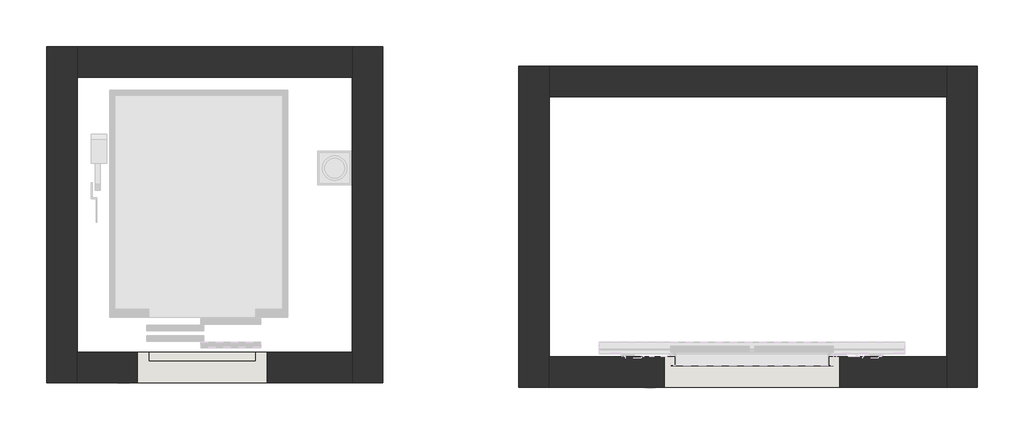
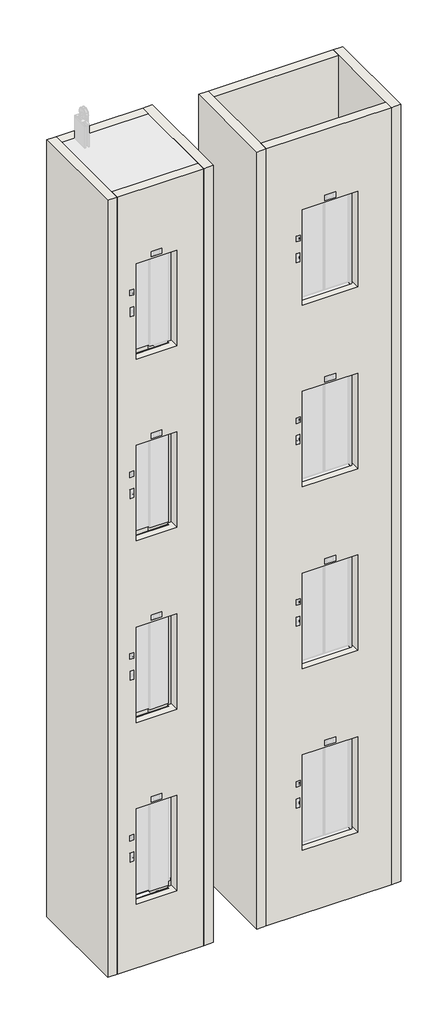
# One storey, part 1 of 2: 8 walls.
"""IFC4 building model written with IfcOpenShell, lengths in millimetres."""

from ifc_helpers import new_model, si_unit, frame, origin, place, context, project, spatial, polyline, outline, extrude, faceted_brep, element, save

model = new_model("IFC4")

# Units and contexts
model_context = context("Model", 3, world=origin())
ifc_project = project(units=[si_unit("LENGTHUNIT", "METRE", prefix="MILLI")], contexts=[model_context])

# Site, building, storey
site = spatial("IfcSite", under=ifc_project)
building = spatial("IfcBuilding", under=site)
storey = spatial("IfcBuildingStorey", under=building, Name="Уровень 2", Elevation=4000.0)

# Walls
placement = place(None, origin())
element("IfcWall", 1, ObjectType="Типовой - 200мм", at=placement, inside=storey, context=model_context, shape_type="Brep", body=[
    faceted_brep([(528.4862631, -2017.209494, 2600.0), (528.4862631, -2217.209494, 2600.0), (528.4862631, -3917.209494, 2600.0), (528.4862631, -4117.209494, 2600.0), (528.4862631, -4117.209494, 19700.0), (528.4862631, -3917.209494, 19700.0), (528.4862631, -2217.209494, 19700.0), (528.4862631, -2017.209494, 19700.0), (728.4862631, -2017.209494, 2600.0), (728.4862631, -2017.209494, 19700.0), (728.4862631, -4117.209494, 19700.0), (728.4862631, -4117.209494, 2600.0)], [[[0, 1, 2, 3, 4, 5, 6, 7]], [[8, 9, 10, 11]], [[3, 2, 1, 0, 8, 11]], [[4, 3, 11, 10]], [[0, 7, 9, 8]], [[7, 6, 5, 4, 10, 9]]]),
])
element("IfcWall", 2, ObjectType="Типовой - 200мм", at=placement, inside=storey, context=model_context, shape_type="Brep", body=[
    faceted_brep([(-2271.5137369, -2017.209494, 2600.0), (-2271.5137369, -4117.209494, 2600.0), (-2271.5137369, -4117.209494, 19700.0), (-2271.5137369, -2017.209494, 19700.0), (-2071.5137369, -2017.209494, 2600.0), (-2071.5137369, -2017.209494, 19700.0), (-2071.5137369, -2217.209494, 19700.0), (-2071.5137369, -3917.209494, 19700.0), (-2071.5137369, -4117.209494, 19700.0), (-2071.5137369, -4117.209494, 2600.0), (-2071.5137369, -3917.209494, 2600.0), (-2071.5137369, -2217.209494, 2600.0)], [[[0, 1, 2, 3]], [[4, 5, 6, 7, 8, 9, 10, 11]], [[1, 0, 4, 11, 10, 9]], [[2, 1, 9, 8]], [[0, 3, 5, 4]], [[3, 2, 8, 7, 6, 5]]]),
])
element("IfcWall", 3, ObjectType="Типовой - 200мм", at=placement, inside=storey, context=model_context, shape_type="Brep", body=[
    faceted_brep([(-2071.5137369, -4117.209494, 2600.0), (528.4862631, -4117.209494, 2600.0), (528.4862631, -4117.209494, 19700.0), (-2071.5137369, -4117.209494, 19700.0), (-836.5137369, -4117.209494, 10250.0), (-656.5137369, -4117.209494, 10250.0), (-656.5137369, -4117.209494, 10150.0), (-836.5137369, -4117.209494, 10150.0), (-1432.8137369, -4117.209494, 9055.0), (-1432.8137369, -4117.209494, 9095.0), (-1392.8137369, -4117.209494, 9095.0), (-1392.8137369, -4117.209494, 9055.0), (-1432.8137369, -4117.209494, 9520.0), (-1392.8137369, -4117.209494, 9520.0), (-1392.8137369, -4117.209494, 9480.0), (-1432.8137369, -4117.209494, 9480.0), (-171.5137369, -4117.209494, 8000.0), (-1321.5137369, -4117.209494, 8000.0), (-1321.5137369, -4117.209494, 10100.0), (-171.5137369, -4117.209494, 10100.0), (-836.5137369, -4117.209494, 14250.0), (-656.5137369, -4117.209494, 14250.0), (-656.5137369, -4117.209494, 14150.0), (-836.5137369, -4117.209494, 14150.0), (-1432.8137369, -4117.209494, 13055.0), (-1432.8137369, -4117.209494, 13095.0), (-1392.8137369, -4117.209494, 13095.0), (-1392.8137369, -4117.209494, 13055.0), (-1432.8137369, -4117.209494, 13520.0), (-1392.8137369, -4117.209494, 13520.0), (-1392.8137369, -4117.209494, 13480.0), (-1432.8137369, -4117.209494, 13480.0), (-171.5137369, -4117.209494, 12000.0), (-1321.5137369, -4117.209494, 12000.0), (-1321.5137369, -4117.209494, 14100.0), (-171.5137369, -4117.209494, 14100.0), (-836.5137369, -4117.209494, 18250.0), (-656.5137369, -4117.209494, 18250.0), (-656.5137369, -4117.209494, 18150.0), (-836.5137369, -4117.209494, 18150.0), (-1432.8137369, -4117.209494, 17055.0), (-1432.8137369, -4117.209494, 17095.0), (-1392.8137369, -4117.209494, 17095.0), (-1392.8137369, -4117.209494, 17055.0), (-1432.8137369, -4117.209494, 17520.0), (-1392.8137369, -4117.209494, 17520.0), (-1392.8137369, -4117.209494, 17480.0), (-1432.8137369, -4117.209494, 17480.0), (-171.5137369, -4117.209494, 16000.0), (-1321.5137369, -4117.209494, 16000.0), (-1321.5137369, -4117.209494, 18100.0), (-171.5137369, -4117.209494, 18100.0), (-836.5137369, -4117.209494, 6250.0), (-656.5137369, -4117.209494, 6250.0), (-656.5137369, -4117.209494, 6150.0), (-836.5137369, -4117.209494, 6150.0), (-1432.8137369, -4117.209494, 5055.0), (-1432.8137369, -4117.209494, 5095.0), (-1392.8137369, -4117.209494, 5095.0), (-1392.8137369, -4117.209494, 5055.0), (-1432.8137369, -4117.209494, 5520.0), (-1392.8137369, -4117.209494, 5520.0), (-1392.8137369, -4117.209494, 5480.0), (-1432.8137369, -4117.209494, 5480.0), (-171.5137369, -4117.209494, 4000.0), (-1321.5137369, -4117.209494, 4000.0), (-1321.5137369, -4117.209494, 6100.0), (-171.5137369, -4117.209494, 6100.0), (528.4862631, -3917.209494, 2600.0), (-2071.5137369, -3917.209494, 2600.0), (-2071.5137369, -3917.209494, 19700.0), (528.4862631, -3917.209494, 19700.0), (-726.5137369, -3917.209494, 10180.0), (-726.5137369, -3917.209494, 10220.0), (-766.5137369, -3917.209494, 10220.0), (-766.5137369, -3917.209494, 10180.0), (-1432.8137369, -3917.209494, 9095.0), (-1432.8137369, -3917.209494, 9055.0), (-1392.8137369, -3917.209494, 9055.0), (-1392.8137369, -3917.209494, 9095.0), (-1392.8137369, -3917.209494, 9520.0), (-1432.8137369, -3917.209494, 9520.0), (-1432.8137369, -3917.209494, 9480.0), (-1392.8137369, -3917.209494, 9480.0), (-1321.5137369, -3917.209494, 8000.0), (-1246.5137369, -3917.209494, 8000.0), (-1246.5137369, -3917.209494, 7970.0), (-246.5137369, -3917.209494, 7970.0), (-246.5137369, -3917.209494, 8000.0), (-171.5137369, -3917.209494, 8000.0), (-171.5137369, -3917.209494, 10100.0), (-1321.5137369, -3917.209494, 10100.0), (-726.5137369, -3917.209494, 14180.0), (-726.5137369, -3917.209494, 14220.0), (-766.5137369, -3917.209494, 14220.0), (-766.5137369, -3917.209494, 14180.0), (-1432.8137369, -3917.209494, 13095.0), (-1432.8137369, -3917.209494, 13055.0), (-1392.8137369, -3917.209494, 13055.0), (-1392.8137369, -3917.209494, 13095.0), (-1392.8137369, -3917.209494, 13520.0), (-1432.8137369, -3917.209494, 13520.0), (-1432.8137369, -3917.209494, 13480.0), (-1392.8137369, -3917.209494, 13480.0), (-1321.5137369, -3917.209494, 12000.0), (-1246.5137369, -3917.209494, 12000.0), (-1246.5137369, -3917.209494, 11970.0), (-246.5137369, -3917.209494, 11970.0), (-246.5137369, -3917.209494, 12000.0), (-171.5137369, -3917.209494, 12000.0), (-171.5137369, -3917.209494, 14100.0), (-1321.5137369, -3917.209494, 14100.0), (-726.5137369, -3917.209494, 18180.0), (-726.5137369, -3917.209494, 18220.0), (-766.5137369, -3917.209494, 18220.0), (-766.5137369, -3917.209494, 18180.0), (-1432.8137369, -3917.209494, 17095.0), (-1432.8137369, -3917.209494, 17055.0), (-1392.8137369, -3917.209494, 17055.0), (-1392.8137369, -3917.209494, 17095.0), (-1392.8137369, -3917.209494, 17520.0), (-1432.8137369, -3917.209494, 17520.0), (-1432.8137369, -3917.209494, 17480.0), (-1392.8137369, -3917.209494, 17480.0), (-1321.5137369, -3917.209494, 16000.0), (-1246.5137369, -3917.209494, 16000.0), (-1246.5137369, -3917.209494, 15970.0), (-246.5137369, -3917.209494, 15970.0), (-246.5137369, -3917.209494, 16000.0), (-171.5137369, -3917.209494, 16000.0), (-171.5137369, -3917.209494, 18100.0), (-1321.5137369, -3917.209494, 18100.0), (-726.5137369, -3917.209494, 6180.0), (-726.5137369, -3917.209494, 6220.0), (-766.5137369, -3917.209494, 6220.0), (-766.5137369, -3917.209494, 6180.0), (-1432.8137369, -3917.209494, 5095.0), (-1432.8137369, -3917.209494, 5055.0), (-1392.8137369, -3917.209494, 5055.0), (-1392.8137369, -3917.209494, 5095.0), (-1392.8137369, -3917.209494, 5520.0), (-1432.8137369, -3917.209494, 5520.0), (-1432.8137369, -3917.209494, 5480.0), (-1392.8137369, -3917.209494, 5480.0), (-1321.5137369, -3917.209494, 4000.0), (-1246.5137369, -3917.209494, 4000.0), (-1246.5137369, -3917.209494, 3970.0), (-246.5137369, -3917.209494, 3970.0), (-246.5137369, -3917.209494, 4000.0), (-171.5137369, -3917.209494, 4000.0), (-171.5137369, -3917.209494, 6100.0), (-1321.5137369, -3917.209494, 6100.0), (-726.5137369, -4037.209494, 10180.0), (-726.5137369, -4037.209494, 10220.0), (-766.5137369, -4037.209494, 10220.0), (-766.5137369, -4037.209494, 10180.0), (-656.5137369, -4037.209494, 10250.0), (-836.5137369, -4037.209494, 10250.0), (-836.5137369, -4037.209494, 10150.0), (-656.5137369, -4037.209494, 10150.0), (-246.5137369, -3977.209494, 8000.0), (-1246.5137369, -3977.209494, 8000.0), (-1246.5137369, -3977.209494, 7970.0), (-246.5137369, -3977.209494, 7970.0), (-726.5137369, -4037.209494, 14180.0), (-726.5137369, -4037.209494, 14220.0), (-766.5137369, -4037.209494, 14220.0), (-766.5137369, -4037.209494, 14180.0), (-656.5137369, -4037.209494, 14250.0), (-836.5137369, -4037.209494, 14250.0), (-836.5137369, -4037.209494, 14150.0), (-656.5137369, -4037.209494, 14150.0), (-246.5137369, -3977.209494, 12000.0), (-1246.5137369, -3977.209494, 12000.0), (-1246.5137369, -3977.209494, 11970.0), (-246.5137369, -3977.209494, 11970.0), (-726.5137369, -4037.209494, 18180.0), (-726.5137369, -4037.209494, 18220.0), (-766.5137369, -4037.209494, 18220.0), (-766.5137369, -4037.209494, 18180.0), (-656.5137369, -4037.209494, 18250.0), (-836.5137369, -4037.209494, 18250.0), (-836.5137369, -4037.209494, 18150.0), (-656.5137369, -4037.209494, 18150.0), (-246.5137369, -3977.209494, 16000.0), (-1246.5137369, -3977.209494, 16000.0), (-1246.5137369, -3977.209494, 15970.0), (-246.5137369, -3977.209494, 15970.0), (-726.5137369, -4037.209494, 6180.0), (-726.5137369, -4037.209494, 6220.0), (-766.5137369, -4037.209494, 6220.0), (-766.5137369, -4037.209494, 6180.0), (-656.5137369, -4037.209494, 6250.0), (-836.5137369, -4037.209494, 6250.0), (-836.5137369, -4037.209494, 6150.0), (-656.5137369, -4037.209494, 6150.0), (-246.5137369, -3977.209494, 4000.0), (-1246.5137369, -3977.209494, 4000.0), (-1246.5137369, -3977.209494, 3970.0), (-246.5137369, -3977.209494, 3970.0)], [[[0, 1, 2, 3], [4, 5, 6, 7], [8, 9, 10, 11], [12, 13, 14, 15], [16, 17, 18, 19], [20, 21, 22, 23], [24, 25, 26, 27], [28, 29, 30, 31], [32, 33, 34, 35], [36, 37, 38, 39], [40, 41, 42, 43], [44, 45, 46, 47], [48, 49, 50, 51], [52, 53, 54, 55], [56, 57, 58, 59], [60, 61, 62, 63], [64, 65, 66, 67]], [[68, 69, 70, 71], [72, 73, 74, 75], [76, 77, 78, 79], [80, 81, 82, 83], [84, 85, 86, 87, 88, 89, 90, 91], [92, 93, 94, 95], [96, 97, 98, 99], [100, 101, 102, 103], [104, 105, 106, 107, 108, 109, 110, 111], [112, 113, 114, 115], [116, 117, 118, 119], [120, 121, 122, 123], [124, 125, 126, 127, 128, 129, 130, 131], [132, 133, 134, 135], [136, 137, 138, 139], [140, 141, 142, 143], [144, 145, 146, 147, 148, 149, 150, 151]], [[1, 0, 69, 68]], [[0, 3, 70, 69]], [[2, 1, 68, 71]], [[3, 2, 71, 70]], [[72, 152, 153, 73]], [[73, 153, 154, 74]], [[74, 154, 155, 75]], [[152, 72, 75, 155]], [[156, 157, 158, 159], [153, 152, 155, 154]], [[157, 156, 5, 4]], [[158, 157, 4, 7]], [[159, 158, 7, 6]], [[156, 159, 6, 5]], [[8, 77, 76, 9]], [[9, 76, 79, 10]], [[10, 79, 78, 11]], [[77, 8, 11, 78]], [[80, 13, 12, 81]], [[82, 15, 14, 83]], [[13, 80, 83, 14]], [[81, 12, 15, 82]], [[84, 17, 16, 89, 88, 160, 161, 85]], [[18, 91, 90, 19]], [[17, 84, 91, 18]], [[89, 16, 19, 90]], [[162, 163, 87, 86]], [[85, 161, 162, 86]], [[161, 160, 163, 162]], [[160, 88, 87, 163]], [[92, 164, 165, 93]], [[93, 165, 166, 94]], [[94, 166, 167, 95]], [[164, 92, 95, 167]], [[168, 169, 170, 171], [165, 164, 167, 166]], [[169, 168, 21, 20]], [[170, 169, 20, 23]], [[171, 170, 23, 22]], [[168, 171, 22, 21]], [[24, 97, 96, 25]], [[25, 96, 99, 26]], [[26, 99, 98, 27]], [[97, 24, 27, 98]], [[100, 29, 28, 101]], [[102, 31, 30, 103]], [[29, 100, 103, 30]], [[101, 28, 31, 102]], [[104, 33, 32, 109, 108, 172, 173, 105]], [[34, 111, 110, 35]], [[33, 104, 111, 34]], [[109, 32, 35, 110]], [[174, 175, 107, 106]], [[105, 173, 174, 106]], [[173, 172, 175, 174]], [[172, 108, 107, 175]], [[112, 176, 177, 113]], [[113, 177, 178, 114]], [[114, 178, 179, 115]], [[176, 112, 115, 179]], [[180, 181, 182, 183], [177, 176, 179, 178]], [[181, 180, 37, 36]], [[182, 181, 36, 39]], [[183, 182, 39, 38]], [[180, 183, 38, 37]], [[40, 117, 116, 41]], [[41, 116, 119, 42]], [[42, 119, 118, 43]], [[117, 40, 43, 118]], [[120, 45, 44, 121]], [[122, 47, 46, 123]], [[45, 120, 123, 46]], [[121, 44, 47, 122]], [[124, 49, 48, 129, 128, 184, 185, 125]], [[50, 131, 130, 51]], [[49, 124, 131, 50]], [[129, 48, 51, 130]], [[186, 187, 127, 126]], [[125, 185, 186, 126]], [[185, 184, 187, 186]], [[184, 128, 127, 187]], [[132, 188, 189, 133]], [[133, 189, 190, 134]], [[134, 190, 191, 135]], [[188, 132, 135, 191]], [[192, 193, 194, 195], [189, 188, 191, 190]], [[193, 192, 53, 52]], [[194, 193, 52, 55]], [[195, 194, 55, 54]], [[192, 195, 54, 53]], [[56, 137, 136, 57]], [[57, 136, 139, 58]], [[58, 139, 138, 59]], [[137, 56, 59, 138]], [[140, 61, 60, 141]], [[142, 63, 62, 143]], [[61, 140, 143, 62]], [[141, 60, 63, 142]], [[144, 65, 64, 149, 148, 196, 197, 145]], [[66, 151, 150, 67]], [[65, 144, 151, 66]], [[149, 64, 67, 150]], [[198, 199, 147, 146]], [[145, 197, 198, 146]], [[197, 196, 199, 198]], [[196, 148, 147, 199]]]),
])
element("IfcWall", 4, ObjectType="Типовой - 200мм", at=placement, inside=storey, context=model_context, shape_type="SweptSolid", body=[
    extrude(outline(polyline([(528.4862631, -2217.209494), (-2071.5137369, -2217.209494), (-2071.5137369, -2017.209494), (528.4862631, -2017.209494), (528.4862631, -2217.209494)])), frame((0.0, 0.0, 2600.0), z_axis=(0.0, 0.0, 1.0), x_axis=(1.0, 0.0, 0.0)), (0.0, 0.0, 1.0), 17100.0),
])
element("IfcWall", 5, ObjectType="Типовой - 200мм", at=placement, inside=storey, context=model_context, shape_type="Brep", body=[
    faceted_brep([(-3362.0143835, -1887.209494, 2600.0), (-3362.0143835, -2087.209494, 2600.0), (-3362.0143835, -3887.209494, 2600.0), (-3362.0143835, -4087.209494, 2600.0), (-3362.0143835, -4087.209494, 19700.0), (-3362.0143835, -3887.209494, 19700.0), (-3362.0143835, -2087.209494, 19700.0), (-3362.0143835, -1887.209494, 19700.0), (-3162.0143835, -1887.209494, 2600.0), (-3162.0143835, -1887.209494, 19700.0), (-3162.0143835, -4087.209494, 19700.0), (-3162.0143835, -4087.209494, 2600.0)], [[[0, 1, 2, 3, 4, 5, 6, 7]], [[8, 9, 10, 11]], [[3, 2, 1, 0, 8, 11]], [[4, 3, 11, 10]], [[0, 7, 9, 8]], [[7, 6, 5, 4, 10, 9]]]),
])
element("IfcWall", 6, ObjectType="Типовой - 200мм", at=placement, inside=storey, context=model_context, shape_type="Brep", body=[
    faceted_brep([(-5362.0143835, -1887.209494, 2600.0), (-5362.0143835, -4087.209494, 2600.0), (-5362.0143835, -4087.209494, 19700.0), (-5362.0143835, -1887.209494, 19700.0), (-5162.0143835, -1887.209494, 2600.0), (-5162.0143835, -1887.209494, 19700.0), (-5162.0143835, -2087.209494, 19700.0), (-5162.0143835, -3887.209494, 19700.0), (-5162.0143835, -4087.209494, 19700.0), (-5162.0143835, -4087.209494, 2600.0), (-5162.0143835, -3887.209494, 2600.0), (-5162.0143835, -2087.209494, 2600.0)], [[[0, 1, 2, 3]], [[4, 5, 6, 7, 8, 9, 10, 11]], [[1, 0, 4, 11, 10, 9]], [[2, 1, 9, 8]], [[0, 3, 5, 4]], [[3, 2, 8, 7, 6, 5]]]),
])
element("IfcWall", 7, ObjectType="Типовой - 200мм", at=placement, inside=storey, context=model_context, shape_type="Brep", body=[
    faceted_brep([(-5162.0143835, -4087.209494, 2600.0), (-3362.0143835, -4087.209494, 2600.0), (-3362.0143835, -4087.209494, 19700.0), (-5162.0143835, -4087.209494, 19700.0), (-4432.0143835, -4087.209494, 10250.0), (-4252.0143835, -4087.209494, 10250.0), (-4252.0143835, -4087.209494, 10150.0), (-4432.0143835, -4087.209494, 10150.0), (-4878.3143835, -4087.209494, 9055.0), (-4878.3143835, -4087.209494, 9095.0), (-4838.3143835, -4087.209494, 9095.0), (-4838.3143835, -4087.209494, 9055.0), (-4878.3143835, -4087.209494, 9520.0), (-4838.3143835, -4087.209494, 9520.0), (-4838.3143835, -4087.209494, 9480.0), (-4878.3143835, -4087.209494, 9480.0), (-3917.0143835, -4087.209494, 8000.0), (-4767.0143835, -4087.209494, 8000.0), (-4767.0143835, -4087.209494, 10100.0), (-3917.0143835, -4087.209494, 10100.0), (-4432.0143835, -4087.209494, 14250.0), (-4252.0143835, -4087.209494, 14250.0), (-4252.0143835, -4087.209494, 14150.0), (-4432.0143835, -4087.209494, 14150.0), (-4878.3143835, -4087.209494, 13055.0), (-4878.3143835, -4087.209494, 13095.0), (-4838.3143835, -4087.209494, 13095.0), (-4838.3143835, -4087.209494, 13055.0), (-4878.3143835, -4087.209494, 13520.0), (-4838.3143835, -4087.209494, 13520.0), (-4838.3143835, -4087.209494, 13480.0), (-4878.3143835, -4087.209494, 13480.0), (-3917.0143835, -4087.209494, 12000.0), (-4767.0143835, -4087.209494, 12000.0), (-4767.0143835, -4087.209494, 14100.0), (-3917.0143835, -4087.209494, 14100.0), (-4432.0143835, -4087.209494, 18250.0), (-4252.0143835, -4087.209494, 18250.0), (-4252.0143835, -4087.209494, 18150.0), (-4432.0143835, -4087.209494, 18150.0), (-4878.3143835, -4087.209494, 17055.0), (-4878.3143835, -4087.209494, 17095.0), (-4838.3143835, -4087.209494, 17095.0), (-4838.3143835, -4087.209494, 17055.0), (-4878.3143835, -4087.209494, 17520.0), (-4838.3143835, -4087.209494, 17520.0), (-4838.3143835, -4087.209494, 17480.0), (-4878.3143835, -4087.209494, 17480.0), (-3917.0143835, -4087.209494, 16000.0), (-4767.0143835, -4087.209494, 16000.0), (-4767.0143835, -4087.209494, 18100.0), (-3917.0143835, -4087.209494, 18100.0), (-4432.0143835, -4087.209494, 6250.0), (-4252.0143835, -4087.209494, 6250.0), (-4252.0143835, -4087.209494, 6150.0), (-4432.0143835, -4087.209494, 6150.0), (-4878.3143835, -4087.209494, 5055.0), (-4878.3143835, -4087.209494, 5095.0), (-4838.3143835, -4087.209494, 5095.0), (-4838.3143835, -4087.209494, 5055.0), (-4878.3143835, -4087.209494, 5520.0), (-4838.3143835, -4087.209494, 5520.0), (-4838.3143835, -4087.209494, 5480.0), (-4878.3143835, -4087.209494, 5480.0), (-3917.0143835, -4087.209494, 4000.0), (-4767.0143835, -4087.209494, 4000.0), (-4767.0143835, -4087.209494, 6100.0), (-3917.0143835, -4087.209494, 6100.0), (-3362.0143835, -3887.209494, 2600.0), (-5162.0143835, -3887.209494, 2600.0), (-5162.0143835, -3887.209494, 19700.0), (-3362.0143835, -3887.209494, 19700.0), (-4322.0143835, -3887.209494, 10180.0), (-4322.0143835, -3887.209494, 10220.0), (-4362.0143835, -3887.209494, 10220.0), (-4362.0143835, -3887.209494, 10180.0), (-4878.3143835, -3887.209494, 9095.0), (-4878.3143835, -3887.209494, 9055.0), (-4838.3143835, -3887.209494, 9055.0), (-4838.3143835, -3887.209494, 9095.0), (-4838.3143835, -3887.209494, 9520.0), (-4878.3143835, -3887.209494, 9520.0), (-4878.3143835, -3887.209494, 9480.0), (-4838.3143835, -3887.209494, 9480.0), (-4767.0143835, -3887.209494, 8000.0), (-4692.0143835, -3887.209494, 8000.0), (-4692.0143835, -3887.209494, 7970.0), (-3992.0143835, -3887.209494, 7970.0), (-3992.0143835, -3887.209494, 8000.0), (-3917.0143835, -3887.209494, 8000.0), (-3917.0143835, -3887.209494, 10100.0), (-4767.0143835, -3887.209494, 10100.0), (-4322.0143835, -3887.209494, 14180.0), (-4322.0143835, -3887.209494, 14220.0), (-4362.0143835, -3887.209494, 14220.0), (-4362.0143835, -3887.209494, 14180.0), (-4878.3143835, -3887.209494, 13095.0), (-4878.3143835, -3887.209494, 13055.0), (-4838.3143835, -3887.209494, 13055.0), (-4838.3143835, -3887.209494, 13095.0), (-4838.3143835, -3887.209494, 13520.0), (-4878.3143835, -3887.209494, 13520.0), (-4878.3143835, -3887.209494, 13480.0), (-4838.3143835, -3887.209494, 13480.0), (-4767.0143835, -3887.209494, 12000.0), (-4692.0143835, -3887.209494, 12000.0), (-4692.0143835, -3887.209494, 11970.0), (-3992.0143835, -3887.209494, 11970.0), (-3992.0143835, -3887.209494, 12000.0), (-3917.0143835, -3887.209494, 12000.0), (-3917.0143835, -3887.209494, 14100.0), (-4767.0143835, -3887.209494, 14100.0), (-4322.0143835, -3887.209494, 18180.0), (-4322.0143835, -3887.209494, 18220.0), (-4362.0143835, -3887.209494, 18220.0), (-4362.0143835, -3887.209494, 18180.0), (-4878.3143835, -3887.209494, 17095.0), (-4878.3143835, -3887.209494, 17055.0), (-4838.3143835, -3887.209494, 17055.0), (-4838.3143835, -3887.209494, 17095.0), (-4838.3143835, -3887.209494, 17520.0), (-4878.3143835, -3887.209494, 17520.0), (-4878.3143835, -3887.209494, 17480.0), (-4838.3143835, -3887.209494, 17480.0), (-4767.0143835, -3887.209494, 16000.0), (-4692.0143835, -3887.209494, 16000.0), (-4692.0143835, -3887.209494, 15970.0), (-3992.0143835, -3887.209494, 15970.0), (-3992.0143835, -3887.209494, 16000.0), (-3917.0143835, -3887.209494, 16000.0), (-3917.0143835, -3887.209494, 18100.0), (-4767.0143835, -3887.209494, 18100.0), (-4322.0143835, -3887.209494, 6180.0), (-4322.0143835, -3887.209494, 6220.0), (-4362.0143835, -3887.209494, 6220.0), (-4362.0143835, -3887.209494, 6180.0), (-4878.3143835, -3887.209494, 5095.0), (-4878.3143835, -3887.209494, 5055.0), (-4838.3143835, -3887.209494, 5055.0), (-4838.3143835, -3887.209494, 5095.0), (-4838.3143835, -3887.209494, 5520.0), (-4878.3143835, -3887.209494, 5520.0), (-4878.3143835, -3887.209494, 5480.0), (-4838.3143835, -3887.209494, 5480.0), (-4767.0143835, -3887.209494, 4000.0), (-4692.0143835, -3887.209494, 4000.0), (-4692.0143835, -3887.209494, 3970.0), (-3992.0143835, -3887.209494, 3970.0), (-3992.0143835, -3887.209494, 4000.0), (-3917.0143835, -3887.209494, 4000.0), (-3917.0143835, -3887.209494, 6100.0), (-4767.0143835, -3887.209494, 6100.0), (-4322.0143835, -4007.209494, 10180.0), (-4322.0143835, -4007.209494, 10220.0), (-4362.0143835, -4007.209494, 10220.0), (-4362.0143835, -4007.209494, 10180.0), (-4252.0143835, -4007.209494, 10250.0), (-4432.0143835, -4007.209494, 10250.0), (-4432.0143835, -4007.209494, 10150.0), (-4252.0143835, -4007.209494, 10150.0), (-3992.0143835, -3947.209494, 8000.0), (-4692.0143835, -3947.209494, 8000.0), (-4692.0143835, -3947.209494, 7970.0), (-3992.0143835, -3947.209494, 7970.0), (-4322.0143835, -4007.209494, 14180.0), (-4322.0143835, -4007.209494, 14220.0), (-4362.0143835, -4007.209494, 14220.0), (-4362.0143835, -4007.209494, 14180.0), (-4252.0143835, -4007.209494, 14250.0), (-4432.0143835, -4007.209494, 14250.0), (-4432.0143835, -4007.209494, 14150.0), (-4252.0143835, -4007.209494, 14150.0), (-3992.0143835, -3947.209494, 12000.0), (-4692.0143835, -3947.209494, 12000.0), (-4692.0143835, -3947.209494, 11970.0), (-3992.0143835, -3947.209494, 11970.0), (-4322.0143835, -4007.209494, 18180.0), (-4322.0143835, -4007.209494, 18220.0), (-4362.0143835, -4007.209494, 18220.0), (-4362.0143835, -4007.209494, 18180.0), (-4252.0143835, -4007.209494, 18250.0), (-4432.0143835, -4007.209494, 18250.0), (-4432.0143835, -4007.209494, 18150.0), (-4252.0143835, -4007.209494, 18150.0), (-3992.0143835, -3947.209494, 16000.0), (-4692.0143835, -3947.209494, 16000.0), (-4692.0143835, -3947.209494, 15970.0), (-3992.0143835, -3947.209494, 15970.0), (-4322.0143835, -4007.209494, 6180.0), (-4322.0143835, -4007.209494, 6220.0), (-4362.0143835, -4007.209494, 6220.0), (-4362.0143835, -4007.209494, 6180.0), (-4252.0143835, -4007.209494, 6250.0), (-4432.0143835, -4007.209494, 6250.0), (-4432.0143835, -4007.209494, 6150.0), (-4252.0143835, -4007.209494, 6150.0), (-3992.0143835, -3947.209494, 4000.0), (-4692.0143835, -3947.209494, 4000.0), (-4692.0143835, -3947.209494, 3970.0), (-3992.0143835, -3947.209494, 3970.0)], [[[0, 1, 2, 3], [4, 5, 6, 7], [8, 9, 10, 11], [12, 13, 14, 15], [16, 17, 18, 19], [20, 21, 22, 23], [24, 25, 26, 27], [28, 29, 30, 31], [32, 33, 34, 35], [36, 37, 38, 39], [40, 41, 42, 43], [44, 45, 46, 47], [48, 49, 50, 51], [52, 53, 54, 55], [56, 57, 58, 59], [60, 61, 62, 63], [64, 65, 66, 67]], [[68, 69, 70, 71], [72, 73, 74, 75], [76, 77, 78, 79], [80, 81, 82, 83], [84, 85, 86, 87, 88, 89, 90, 91], [92, 93, 94, 95], [96, 97, 98, 99], [100, 101, 102, 103], [104, 105, 106, 107, 108, 109, 110, 111], [112, 113, 114, 115], [116, 117, 118, 119], [120, 121, 122, 123], [124, 125, 126, 127, 128, 129, 130, 131], [132, 133, 134, 135], [136, 137, 138, 139], [140, 141, 142, 143], [144, 145, 146, 147, 148, 149, 150, 151]], [[1, 0, 69, 68]], [[0, 3, 70, 69]], [[2, 1, 68, 71]], [[3, 2, 71, 70]], [[72, 152, 153, 73]], [[73, 153, 154, 74]], [[74, 154, 155, 75]], [[152, 72, 75, 155]], [[156, 157, 158, 159], [153, 152, 155, 154]], [[157, 156, 5, 4]], [[158, 157, 4, 7]], [[159, 158, 7, 6]], [[156, 159, 6, 5]], [[8, 77, 76, 9]], [[9, 76, 79, 10]], [[10, 79, 78, 11]], [[77, 8, 11, 78]], [[80, 13, 12, 81]], [[82, 15, 14, 83]], [[13, 80, 83, 14]], [[81, 12, 15, 82]], [[84, 17, 16, 89, 88, 160, 161, 85]], [[18, 91, 90, 19]], [[17, 84, 91, 18]], [[89, 16, 19, 90]], [[162, 163, 87, 86]], [[85, 161, 162, 86]], [[161, 160, 163, 162]], [[160, 88, 87, 163]], [[92, 164, 165, 93]], [[93, 165, 166, 94]], [[94, 166, 167, 95]], [[164, 92, 95, 167]], [[168, 169, 170, 171], [165, 164, 167, 166]], [[169, 168, 21, 20]], [[170, 169, 20, 23]], [[171, 170, 23, 22]], [[168, 171, 22, 21]], [[24, 97, 96, 25]], [[25, 96, 99, 26]], [[26, 99, 98, 27]], [[97, 24, 27, 98]], [[100, 29, 28, 101]], [[102, 31, 30, 103]], [[29, 100, 103, 30]], [[101, 28, 31, 102]], [[104, 33, 32, 109, 108, 172, 173, 105]], [[34, 111, 110, 35]], [[33, 104, 111, 34]], [[109, 32, 35, 110]], [[174, 175, 107, 106]], [[105, 173, 174, 106]], [[173, 172, 175, 174]], [[172, 108, 107, 175]], [[112, 176, 177, 113]], [[113, 177, 178, 114]], [[114, 178, 179, 115]], [[176, 112, 115, 179]], [[180, 181, 182, 183], [177, 176, 179, 178]], [[181, 180, 37, 36]], [[182, 181, 36, 39]], [[183, 182, 39, 38]], [[180, 183, 38, 37]], [[40, 117, 116, 41]], [[41, 116, 119, 42]], [[42, 119, 118, 43]], [[117, 40, 43, 118]], [[120, 45, 44, 121]], [[122, 47, 46, 123]], [[45, 120, 123, 46]], [[121, 44, 47, 122]], [[124, 49, 48, 129, 128, 184, 185, 125]], [[50, 131, 130, 51]], [[49, 124, 131, 50]], [[129, 48, 51, 130]], [[186, 187, 127, 126]], [[125, 185, 186, 126]], [[185, 184, 187, 186]], [[184, 128, 127, 187]], [[132, 188, 189, 133]], [[133, 189, 190, 134]], [[134, 190, 191, 135]], [[188, 132, 135, 191]], [[192, 193, 194, 195], [189, 188, 191, 190]], [[193, 192, 53, 52]], [[194, 193, 52, 55]], [[195, 194, 55, 54]], [[192, 195, 54, 53]], [[56, 137, 136, 57]], [[57, 136, 139, 58]], [[58, 139, 138, 59]], [[137, 56, 59, 138]], [[140, 61, 60, 141]], [[142, 63, 62, 143]], [[61, 140, 143, 62]], [[141, 60, 63, 142]], [[144, 65, 64, 149, 148, 196, 197, 145]], [[66, 151, 150, 67]], [[65, 144, 151, 66]], [[149, 64, 67, 150]], [[198, 199, 147, 146]], [[145, 197, 198, 146]], [[197, 196, 199, 198]], [[196, 148, 147, 199]]]),
])
element("IfcWall", 8, ObjectType="Типовой - 200мм", at=placement, inside=storey, context=model_context, shape_type="SweptSolid", body=[
    extrude(outline(polyline([(-3362.0143835, -2087.209494), (-5162.0143835, -2087.209494), (-5162.0143835, -1887.209494), (-3362.0143835, -1887.209494), (-3362.0143835, -2087.209494)])), frame((0.0, 0.0, 2600.0), z_axis=(0.0, 0.0, 1.0), x_axis=(1.0, 0.0, 0.0)), (0.0, 0.0, 1.0), 17100.0),
])

save(model, "model.ifc")
